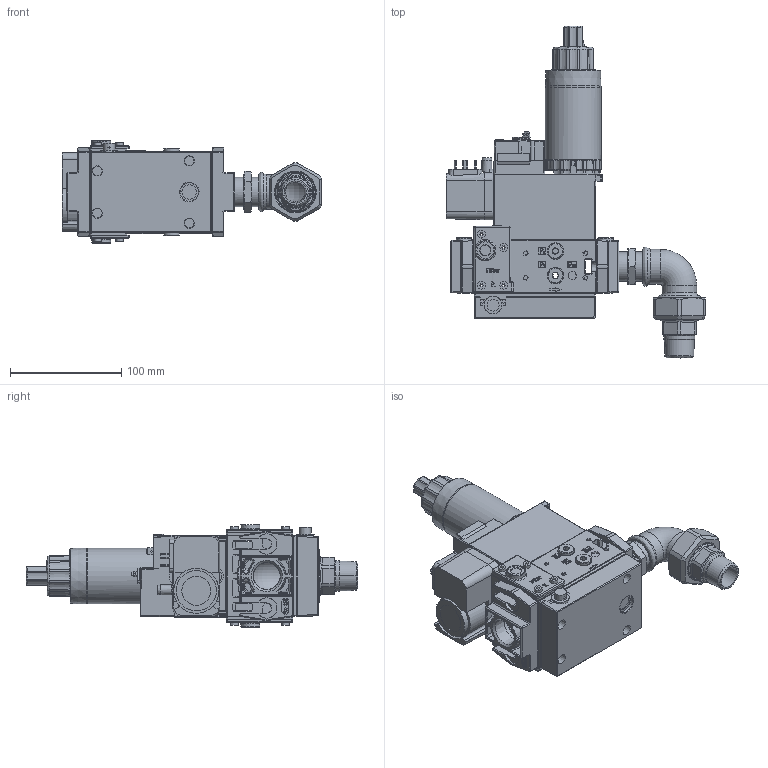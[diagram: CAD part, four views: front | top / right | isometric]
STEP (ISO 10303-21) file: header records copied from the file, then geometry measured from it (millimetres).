
FILE_DESCRIPTION (( 'STEP AP214' ), '1' );
FILE_NAME ('19990016.STEP', '2018-09-17T06:56:30', ( '' ), ( '' ), 'SwSTEP 2.0', 'SolidWorks 2018', '' );
FILE_SCHEMA (( 'AUTOMOTIVE_DESIGN' ));
Length unit declared in the file: millimetre
Products named in the file (1): 19990016
Bounding box: 232.97 x 298.2 x 92 mm (x, y, z)
Surface area: 152921.8 mm2 (no closed solid volume)
Topology: 0 solids, 24 shells, 1682 faces, 6280 edges, 4462 vertices
Faces by surface type: plane 706, cylinder 407, bspline 389, cone 137, torus 43
Full cylindrical faces by diameter (mm): 0.7 x1, 1.5 x1, 2 x4, 2.45 x1, 2.459 x1, 2.6 x1, 3.55 x8, 7 x8, 8 x2, 9 x1, 10.6 x1, 13.1 x1, 14 x6, 15 x8, 15.8 x1, 26 x1, 26.441 x2, 31.1 x2, 35.5 x1, 36.15 x1, 41.91 x1, 49.997 x1, 50 x1
Entity records: 108536 total; most frequent: CARTESIAN_POINT 44359, ORIENTED_EDGE 9442, DIRECTION 7270, EDGE_CURVE 6106, VERTEX_POINT 4411, LINE 3140, VECTOR 3140, B_SPLINE_CURVE_WITH_KNOTS 2068
